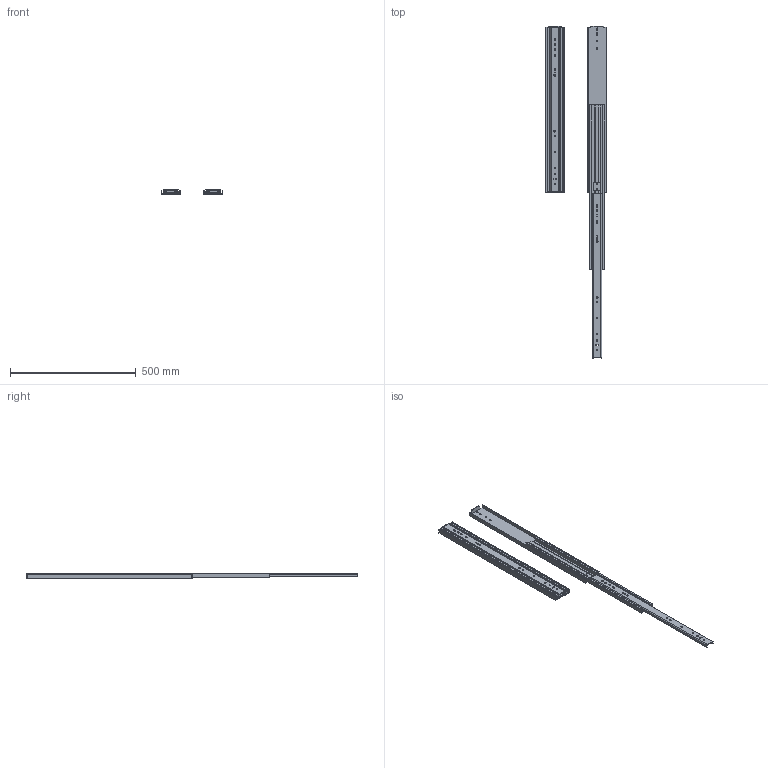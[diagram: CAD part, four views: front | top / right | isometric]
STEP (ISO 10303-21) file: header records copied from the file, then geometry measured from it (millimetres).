
FILE_DESCRIPTION((''),'2;1');
FILE_NAME('ASSEM1_1_2_3_4_5_6_7_8_9_ASM','2026-04-07T16:41:54',('T260078'),(''),'CREO PARAMETRIC BY PTC INC, 2025123','CREO PARAMETRIC BY PTC INC, 2025123','');
FILE_SCHEMA(('CONFIG_CONTROL_DESIGN','SHAPE_APPEARANCE_LAYERS_GROUPS'));
Length unit declared in the file: millimetre
Products named in the file (6): 76J01-26_X2_540B_X0_-M; 76J01-26_X2_540B_X0_-I; 76J01-26_X2_540B_X0_-O; 76J01-26_X2_540_X0__ASM; 76J01-26_X2_540B_X0_-_X2_5C5595_ASM; ASSEM1_1_2_3_4_5_6_7_8_9_ASM
Assembly tree (8 placements, depth 3):
  ASSEM1_1_2_3_4_5_6_7_8_9_ASM
    76J01-26_X2_540_X0__ASM
      76J01-26_X2_540B_X0_-M
      76J01-26_X2_540B_X0_-I
      76J01-26_X2_540B_X0_-O
    76J01-26_X2_540B_X0_-_X2_5C5595_ASM
      76J01-26_X2_540B_X0_-M
      76J01-26_X2_540B_X0_-I
      76J01-26_X2_540B_X0_-O
Bounding box: 245.44 x 1320.8 x 19.3 mm (x, y, z)
Volume: 808585.7 mm3; surface area: 723435.9 mm2
Topology: 6 solids, 6 shells, 388 faces, 1234 edges, 846 vertices
Faces by surface type: plane 200, cylinder 188
Entity records: 8398 total; most frequent: CARTESIAN_POINT 1279, DIRECTION 1254, ORIENTED_EDGE 1234, EDGE_CURVE 617, AXIS2_PLACEMENT_3D 431, VERTEX_POINT 423, VECTOR 392, LINE 392
